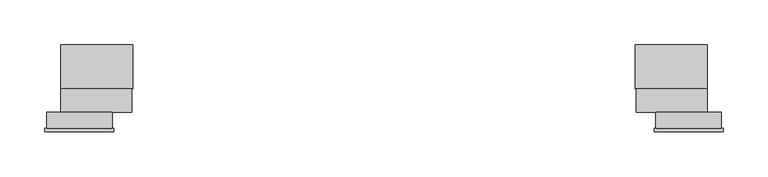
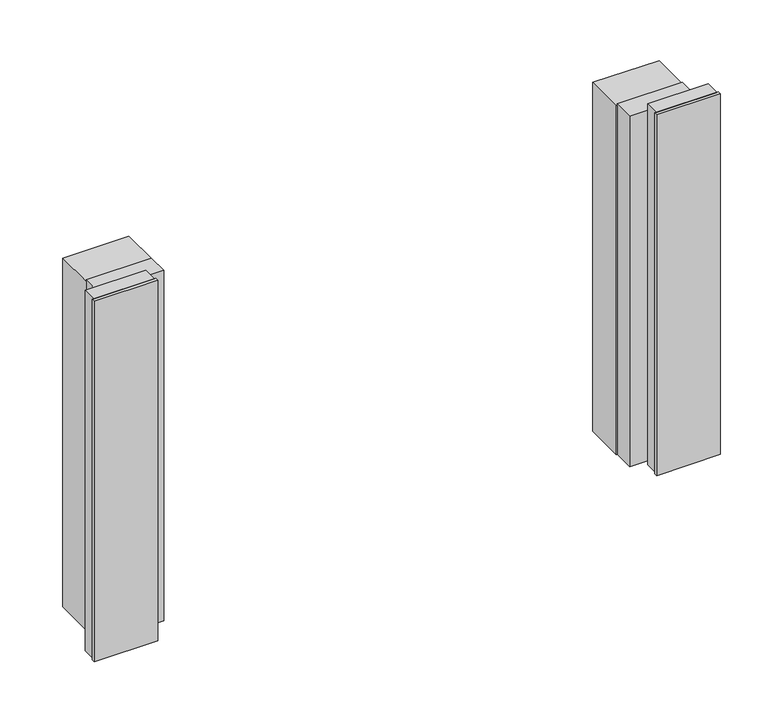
"""IFC4 building model written with IfcOpenShell, lengths in millimetres: proxy geometry, 11768890_USA_EBA2248_OBSW : 29992971_USA_11768890_EBA2248_OBSW."""

import ifcopenshell
import ifcopenshell.guid

model = None  # the IFC model being written
_history = None  # IfcOwnerHistory: only IFC2X3 demands one
_inside = {}  # id of a spatial element -> (the spatial element, [elements in it])
_under = {}  # id of a project, library or spatial element -> (it, [spatial elements below it])
_declared = {}  # id of a project -> (the project, [libraries it declares])
_typed = {}  # id of a type object -> (the type object, [elements of that type])
_made_of = {}  # id of a material, layer set ... -> (it, [elements and type objects made of it])


def new_model(schema):
    """Start an empty IFC model of exactly this schema.

    Asked for "IFC4X3", IfcOpenShell would pick the latest addendum, in which some entities
    have other attributes; the version numbers below select the first issue.
    IFC2X3 requires an IfcOwnerHistory on every rooted entity: one is made here for all.
    """
    global model, _history
    if schema == "IFC4X3":
        model = ifcopenshell.file(schema_version=(4, 3, 0, 0))
    else:
        model = ifcopenshell.file(schema=schema)
    _inside.clear()
    _under.clear()
    _declared.clear()
    _typed.clear()
    _made_of.clear()
    _history = None
    if model.schema == "IFC2X3":
        org = make("IfcOrganization", Name="unknown")
        user = make(
            "IfcPersonAndOrganization",
            ThePerson=make("IfcPerson", FamilyName="unknown"),
            TheOrganization=org,
        )
        app = make(
            "IfcApplication",
            ApplicationDeveloper=org,
            Version="unknown",
            ApplicationFullName="unknown",
            ApplicationIdentifier="unknown",
        )
        _history = make(
            "IfcOwnerHistory",
            OwningUser=user,
            OwningApplication=app,
            ChangeAction="ADDED",
            CreationDate=0,
        )
    return model


def make(cls, **values):
    """One entity of the class cls with the attributes given. An attribute that is None is left unset."""
    return model.create_entity(
        cls, **{name: value for name, value in values.items() if value is not None}
    )


def rooted(cls, **values):
    """An entity with a GlobalId (a new one), such as an element, a storey or a relation."""
    return make(cls, GlobalId=ifcopenshell.guid.new(), OwnerHistory=_history, **values)


def si_unit(unit_type, name, prefix=None):
    """IfcSIUnit, for example si_unit("LENGTHUNIT", "METRE", prefix="MILLI")."""
    return make("IfcSIUnit", UnitType=unit_type, Prefix=prefix, Name=name)


def assignment(units):
    """IfcUnitAssignment: the units of a project."""
    return None if units is None else make("IfcUnitAssignment", Units=units)


def point(xyz):
    """IfcCartesianPoint."""
    return None if xyz is None else make("IfcCartesianPoint", Coordinates=xyz)


def direction(xyz):
    """IfcDirection."""
    return None if xyz is None else make("IfcDirection", DirectionRatios=xyz)


def frame(location, z_axis=None, x_axis=None):
    """IfcAxis2Placement3D, a coordinate frame: its origin and axes. An axis left out is left unset."""
    return make(
        "IfcAxis2Placement3D",
        Location=point(location),
        Axis=direction(z_axis),
        RefDirection=direction(x_axis),
    )


def origin():
    """The frame at (0, 0, 0) with its axes left unset."""
    return frame((0.0, 0.0, 0.0))


def origin_with_axes():
    """The frame at (0, 0, 0) with the z axis (0, 0, 1) and the x axis (1, 0, 0) written out."""
    return frame((0.0, 0.0, 0.0), z_axis=(0.0, 0.0, 1.0), x_axis=(1.0, 0.0, 0.0))


def place(relative_to, where):
    """IfcLocalPlacement: puts the frame where relative to a parent placement (None: the world)."""
    return make(
        "IfcLocalPlacement", PlacementRelTo=relative_to, RelativePlacement=where
    )


def context(
    kind, dimensions, precision=None, world=None, true_north=None, identifier=None
):
    """IfcGeometricRepresentationContext, for example the 3D "Model" context."""
    return make(
        "IfcGeometricRepresentationContext",
        ContextIdentifier=identifier,
        ContextType=kind,
        CoordinateSpaceDimension=dimensions,
        Precision=precision,
        WorldCoordinateSystem=world,
        TrueNorth=true_north,
    )


def project(units=None, contexts=None):
    """IfcProject with its units and contexts."""
    return rooted(
        "IfcProject",
        Name="project",
        RepresentationContexts=contexts,
        UnitsInContext=assignment(units),
    )


def spatial(cls, under=None, at=None, **own):
    """A site, building, storey or space (cls), placed at a placement, below another one or the project."""
    s = rooted(cls, ObjectPlacement=at, **own)
    if under is not None:
        _under.setdefault(under.id(), (under, []))[1].append(s)
    return s


def polyline(points):
    """IfcPolyline through the points."""
    return make("IfcPolyline", Points=[point(p) for p in points])


def outline(outer, holes=None, kind="AREA"):
    """IfcArbitraryClosedProfileDef: a profile drawn as a closed curve; with holes, ...WithVoids."""
    if holes is None:
        return make("IfcArbitraryClosedProfileDef", ProfileType=kind, OuterCurve=outer)
    return make(
        "IfcArbitraryProfileDefWithVoids",
        ProfileType=kind,
        OuterCurve=outer,
        InnerCurves=holes,
    )


def extrude(swept, where, along, depth):
    """IfcExtrudedAreaSolid: the profile swept, set in the frame where, extruded along a direction by depth."""
    return make(
        "IfcExtrudedAreaSolid",
        SweptArea=swept,
        Position=where,
        ExtrudedDirection=direction(along),
        Depth=depth,
    )


def shape(context_of_items, identifier, shape_type, items):
    """IfcShapeRepresentation: the items that make up one representation, for example the "Body"."""
    return make(
        "IfcShapeRepresentation",
        ContextOfItems=context_of_items,
        RepresentationIdentifier=identifier,
        RepresentationType=shape_type,
        Items=items,
    )


def source(mapping_origin, context_of_items, identifier, shape_type, items):
    """IfcRepresentationMap: a shape defined once, which mapped items show again and again."""
    return make(
        "IfcRepresentationMap",
        MappingOrigin=mapping_origin,
        MappedRepresentation=shape(context_of_items, identifier, shape_type, items),
    )


def transform(
    local_origin,
    x_axis=None,
    y_axis=None,
    z_axis=None,
    scale=None,
    scale2=None,
    scale3=None,
    uniform=True,
):
    """IfcCartesianTransformationOperator3D, or its non-uniform kind. x_axis, y_axis, z_axis: its Axis1, 2, 3."""
    if uniform:
        return make(
            "IfcCartesianTransformationOperator3D",
            Axis1=direction(x_axis),
            Axis2=direction(y_axis),
            LocalOrigin=point(local_origin),
            Scale=scale,
            Axis3=direction(z_axis),
        )
    return make(
        "IfcCartesianTransformationOperator3DnonUniform",
        Axis1=direction(x_axis),
        Axis2=direction(y_axis),
        LocalOrigin=point(local_origin),
        Scale=scale,
        Axis3=direction(z_axis),
        Scale2=scale2,
        Scale3=scale3,
    )


def mapped(mapping_source, mapping_target):
    """IfcMappedItem: shows the shape of a source again, moved by a transform."""
    return make(
        "IfcMappedItem", MappingSource=mapping_source, MappingTarget=mapping_target
    )


def made_of(thing, what):
    """Note that an element or type object is made of a material, layer set ...; save() writes the relation."""
    if what is not None:
        _made_of.setdefault(what.id(), (what, []))[1].append(thing)
    return thing


def element(
    cls,
    number,
    at=None,
    inside=None,
    cuts=None,
    type_object=None,
    material=None,
    context=None,
    identifier="Body",
    shape_type=None,
    held_by="IfcProductDefinitionShape",
    body=None,
    shapes=None,
    **own,
):
    """One element of the class cls, such as IfcWall. Its Tag is "e" and its number.

    at: its placement. inside: the storey or other place that contains it. cuts: it is an
    opening in that element (IfcRelVoidsElement). A single representation is given by context,
    identifier, shape_type and body (its items); several are given by shapes. held_by: the class
    of the entity that holds the representations. save() writes the other relations.
    """
    e = rooted(cls, Tag="e%d" % number, ObjectPlacement=at, **own)
    if body is not None:
        shapes = [shape(context, identifier, shape_type, body)]
    if shapes is not None:
        e.Representation = make(held_by, Representations=shapes)
    if inside is not None:
        _inside.setdefault(inside.id(), (inside, []))[1].append(e)
    if cuts is not None:
        rooted(
            "IfcRelVoidsElement", RelatingBuildingElement=cuts, RelatedOpeningElement=e
        )
    if type_object is not None:
        _typed.setdefault(type_object.id(), (type_object, []))[1].append(e)
    return made_of(e, material)


def aggregate(whole, parts):
    """IfcRelAggregates: a whole, such as a stair, and the parts it consists of."""
    return rooted("IfcRelAggregates", RelatingObject=whole, RelatedObjects=parts)


def save(model, path):
    """Write the relations noted so far, then the file.

    IfcRelAggregates (storeys below a building ...), IfcRelContainedInSpatialStructure (elements
    in a storey), IfcRelDefinesByType, IfcRelAssociatesMaterial and IfcRelDeclares: one each for
    every whole, place, type object, material and project.
    """
    for whole, parts in _under.values():
        aggregate(whole, parts)
    for where, things in _inside.values():
        rooted(
            "IfcRelContainedInSpatialStructure",
            RelatedElements=things,
            RelatingStructure=where,
        )
    for kind, things in _typed.values():
        rooted("IfcRelDefinesByType", RelatedObjects=things, RelatingType=kind)
    for what, things in _made_of.values():
        rooted("IfcRelAssociatesMaterial", RelatedObjects=things, RelatingMaterial=what)
    for by, libraries in _declared.values():
        rooted("IfcRelDeclares", RelatingContext=by, RelatedDefinitions=libraries)
    model.write(path)


def specialty_equipment_26bbb87a(model_context):
    return source(origin(), model_context, "Body", "SweptSolid", [
        extrude(outline(polyline([(-376.5, 0.0), (-303.5, 0.0), (-303.5, -18.0), (-376.5, -18.0), (-376.5, 0.0)])), frame((0.0, 0.0, -5.0), z_axis=(0.0, 0.0, 1.0), x_axis=(1.0, 0.0, 0.0)), (0.0, 0.0, 1.0), 461.0),
        extrude(outline(polyline([(303.5, 0.0), (376.5, 0.0), (376.5, -18.0), (303.5, -18.0), (303.5, 0.0)])), frame((0.0, 0.0, -5.0), z_axis=(0.0, 0.0, 1.0), x_axis=(1.0, 0.0, 0.0)), (0.0, 0.0, 1.0), 461.0),
        extrude(outline(polyline([(-378.5, -18.0), (-301.5, -18.0), (-301.5, -22.0), (-378.5, -22.0), (-378.5, -18.0)])), frame((0.0, 0.0, -5.0), z_axis=(0.0, 0.0, 1.0), x_axis=(1.0, 0.0, 0.0)), (0.0, 0.0, 1.0), 461.0),
        extrude(outline(polyline([(301.5, -18.0), (378.5, -18.0), (378.5, -22.0), (301.5, -22.0), (301.5, -18.0)])), frame((0.0, 0.0, -5.0), z_axis=(0.0, 0.0, 1.0), x_axis=(1.0, 0.0, 0.0)), (0.0, 0.0, 1.0), 461.0),
        extrude(outline(polyline([(280.5, 75.0), (360.5, 75.0), (360.5, 26.0), (280.5, 26.0), (280.5, 75.0)])), origin_with_axes(), (0.0, 0.0, 1.0), 446.0),
        extrude(outline(polyline([(-360.5, 75.0), (-280.5, 75.0), (-280.5, 26.0), (-360.5, 26.0), (-360.5, 75.0)])), origin_with_axes(), (0.0, 0.0, 1.0), 446.0),
        extrude(outline(polyline([(281.5, 26.0), (360.5, 26.0), (360.5, 0.0), (281.5, 0.0), (281.5, 26.0)])), origin_with_axes(), (0.0, 0.0, 1.0), 448.0),
        extrude(outline(polyline([(-360.5, 26.0), (-281.5, 26.0), (-281.5, 0.0), (-360.5, 0.0), (-360.5, 26.0)])), origin_with_axes(), (0.0, 0.0, 1.0), 448.0),
    ])


if __name__ == "__main__":
    model = new_model("IFC4")
    model_context = context("Model", 3, world=origin())
    ifc_project = project(units=[si_unit("LENGTHUNIT", "METRE", prefix="MILLI")], contexts=[model_context])
    site = spatial("IfcSite", under=ifc_project)
    building = spatial("IfcBuilding", under=site)
    placement = place(None, origin())
    specialty_equipment_shape = specialty_equipment_26bbb87a(model_context)
    element("IfcBuildingElementProxy", 1, Name="11768890_USA_EBA2248_OBSW : 29992971_USA_11768890_EBA2248_OBSW", ObjectType="11768890_USA_EBA2248_OBSW : 29992971_USA_11768890_EBA2248_OBSW", at=placement, inside=building, context=model_context, shape_type="MappedRepresentation", body=[
        mapped(specialty_equipment_shape, transform((0.0, 0.0, 0.0), x_axis=(1.0, 0.0, 0.0), y_axis=(0.0, 1.0, 0.0), z_axis=(0.0, 0.0, 1.0))),
    ])
    save(model, "model.ifc")
